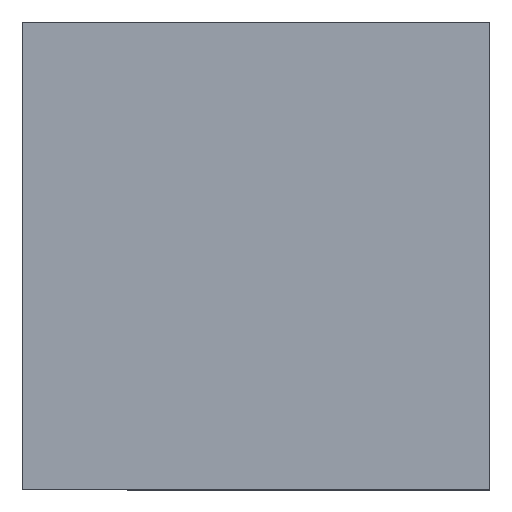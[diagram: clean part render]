
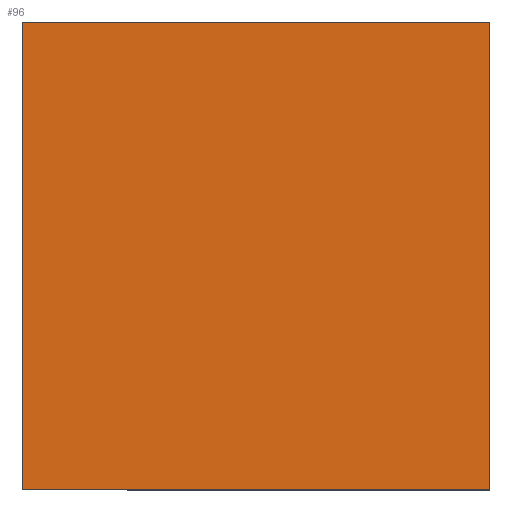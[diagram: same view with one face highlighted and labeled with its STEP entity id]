
A CAD part, top view. The second image highlights one B-rep face of the part: STEP entity #96.
In plain terms, the highlighted planar face has unit normal (0, 0, 1).
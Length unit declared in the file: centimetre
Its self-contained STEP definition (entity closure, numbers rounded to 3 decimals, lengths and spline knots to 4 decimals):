
#3 = VECTOR ( 'NONE', #1172, 100. ) ;
#62 = VECTOR ( 'NONE', #1035, 100. ) ;
#70 = CARTESIAN_POINT ( 'NONE',  ( 0., 0., 1000. ) ) ;
#88 = DIRECTION ( 'NONE',  ( 0., 0., 1. ) ) ;
#96 = ADVANCED_FACE ( 'NONE', ( #362 ), #749, .T. ) ;
#120 = EDGE_CURVE ( 'NONE', #891, #918, #375, .T. ) ;
#130 = EDGE_CURVE ( 'NONE', #918, #745, #638, .T. ) ;
#169 = EDGE_LOOP ( 'NONE', ( #304, #1030, #688, #350 ) ) ;
#297 = CARTESIAN_POINT ( 'NONE',  ( 0., 1000., 1000. ) ) ;
#304 = ORIENTED_EDGE ( 'NONE', *, *, #120, .T. ) ;
#350 = ORIENTED_EDGE ( 'NONE', *, *, #437, .T. ) ;
#362 = FACE_OUTER_BOUND ( 'NONE', #169, .T. ) ;
#373 = CARTESIAN_POINT ( 'NONE',  ( 1000., 0., 1000. ) ) ;
#375 = LINE ( 'NONE', #743, #847 ) ;
#409 = CARTESIAN_POINT ( 'NONE',  ( 0., 0., 1000. ) ) ;
#437 = EDGE_CURVE ( 'NONE', #786, #891, #521, .T. ) ;
#521 = LINE ( 'NONE', #821, #812 ) ;
#554 = CARTESIAN_POINT ( 'NONE',  ( 0., 0., 1000. ) ) ;
#638 = LINE ( 'NONE', #70, #62 ) ;
#688 = ORIENTED_EDGE ( 'NONE', *, *, #910, .T. ) ;
#743 = CARTESIAN_POINT ( 'NONE',  ( 0., 1000., 1000. ) ) ;
#745 = VERTEX_POINT ( 'NONE', #373 ) ;
#749 = PLANE ( 'NONE',  #825 ) ;
#786 = VERTEX_POINT ( 'NONE', #1143 ) ;
#812 = VECTOR ( 'NONE', #1106, 100. ) ;
#821 = CARTESIAN_POINT ( 'NONE',  ( 0., 1000., 1000. ) ) ;
#825 = AXIS2_PLACEMENT_3D ( 'NONE', #554, #88, #1122 ) ;
#847 = VECTOR ( 'NONE', #937, 100. ) ;
#874 = LINE ( 'NONE', #1181, #3 ) ;
#891 = VERTEX_POINT ( 'NONE', #297 ) ;
#910 = EDGE_CURVE ( 'NONE', #745, #786, #874, .T. ) ;
#918 = VERTEX_POINT ( 'NONE', #409 ) ;
#937 = DIRECTION ( 'NONE',  ( 0., -1., 0. ) ) ;
#1030 = ORIENTED_EDGE ( 'NONE', *, *, #130, .T. ) ;
#1035 = DIRECTION ( 'NONE',  ( 1., 0., 0. ) ) ;
#1106 = DIRECTION ( 'NONE',  ( -1., 0., 0. ) ) ;
#1122 = DIRECTION ( 'NONE',  ( 1., 0., 0. ) ) ;
#1143 = CARTESIAN_POINT ( 'NONE',  ( 1000., 1000., 1000. ) ) ;
#1172 = DIRECTION ( 'NONE',  ( 0., 1., 0. ) ) ;
#1181 = CARTESIAN_POINT ( 'NONE',  ( 1000., 1000., 1000. ) ) ;
